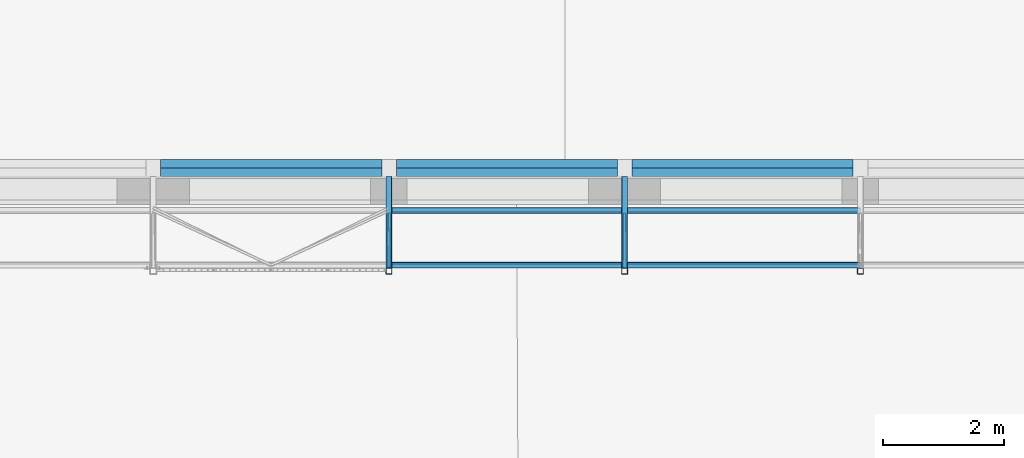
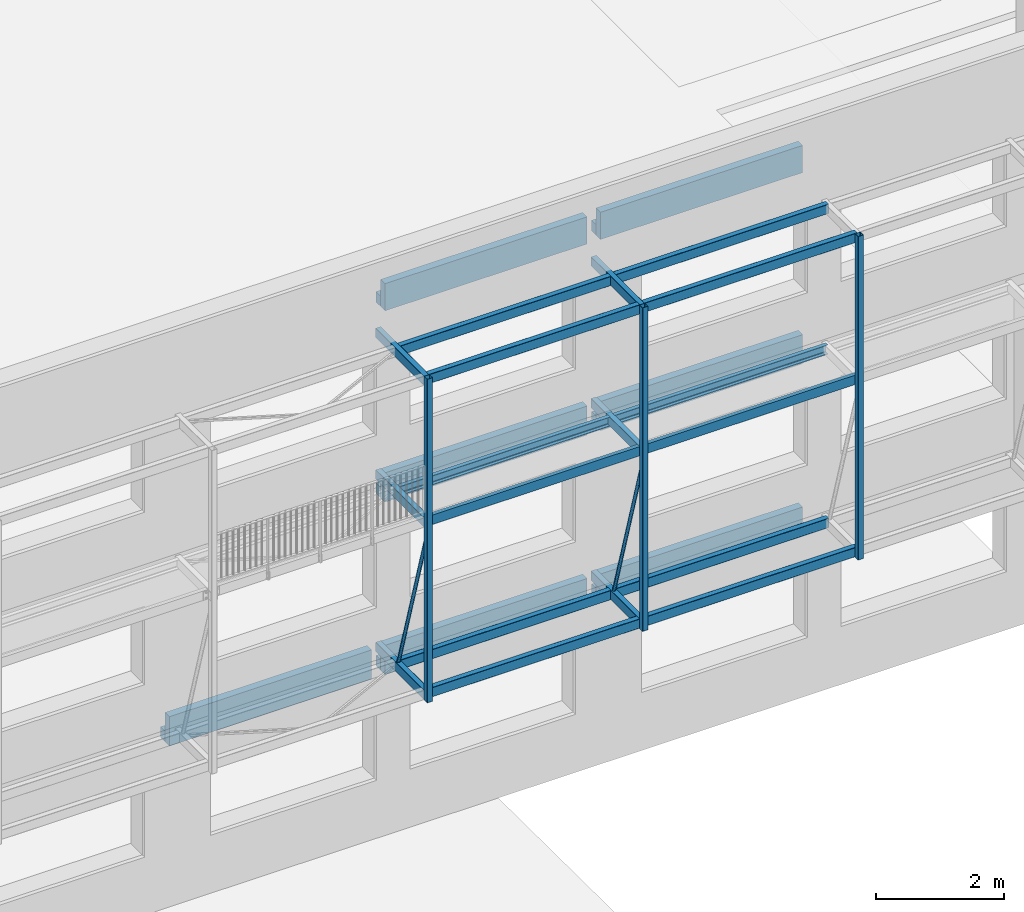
# One storey, part 23 of 78: 35 beams, 2 members, 29 elements without a shape of their own.
"""IFC2X3 building model written with IfcOpenShell, lengths in millimetres."""

from ifc_helpers import new_model, si_unit, frame, origin_with_axes, origin_2d_with_axis, place, context, subcontext, project, spatial, rectangle, hollow_rectangle, hollow_circle, u_section, extrude, clip, halfspace, material, type_object, element, aggregate, save


model = new_model("IFC2X3")

# Units and contexts
model_context = context("Model", 3, precision=1e-05, world=origin_with_axes())
body_context = subcontext(model_context, "Body", "Model", "MODEL_VIEW")
ifc_project = project(units=[si_unit("LENGTHUNIT", "METRE", prefix="MILLI"), si_unit("AREAUNIT", "SQUARE_METRE"), si_unit("VOLUMEUNIT", "CUBIC_METRE"), si_unit("MASSUNIT", "GRAM", prefix="KILO"), si_unit("TIMEUNIT", "SECOND"), si_unit("PLANEANGLEUNIT", "RADIAN"), si_unit("SOLIDANGLEUNIT", "STERADIAN"), si_unit("THERMODYNAMICTEMPERATUREUNIT", "DEGREE_CELSIUS"), si_unit("LUMINOUSINTENSITYUNIT", "LUMEN")], contexts=[model_context])

# Site, building, storey
site_placement = place(None, origin_with_axes())
site = spatial("IfcSite", under=ifc_project, at=site_placement, Name="Site", CompositionType="ELEMENT")
building_placement = place(site_placement, origin_with_axes())
building = spatial("IfcBuilding", under=site, at=building_placement, Name="Undefined", CompositionType="ELEMENT")
storey_placement = place(building_placement, origin_with_axes())
storey = spatial("IfcBuildingStorey", under=building, at=storey_placement, Name="Undefined", CompositionType="ELEMENT", Elevation=0.0)

# Assembly, beam
assembly_1_placement = place(storey_placement, origin_with_axes())
assembly_1 = element("IfcElementAssembly", 1, at=assembly_1_placement, inside=storey, Name="CONSOLE", AssemblyPlace="NOTDEFINED", PredefinedType="RIGID_FRAME")
ifc_material_1 = material(Name="STEEL/S275JR")
beam_type_1 = type_object("IfcBeamType", Name="TUBE-C-100*100*4", PredefinedType="NOTDEFINED")
beam_1_placement = place(assembly_1_placement, frame((-10985.0, -8663.0, 162680.04), z_axis=(0.0, 1.0, 0.0), x_axis=(0.0, 0.0, -1.0)))
beam_1 = element("IfcBeam", 2, at=beam_1_placement, type_object=beam_type_1, material=ifc_material_1, Name="CONSOLE", ObjectType="TUBE-C-100*100*4", context=body_context, shape_type="SweptSolid", body=[
    extrude(hollow_rectangle(XDim=100.0, YDim=100.0, WallThickness=4.0, InnerFilletRadius=4.0, OuterFilletRadius=8.0, at=origin_2d_with_axis()), frame((6190.0, 0.0, 0.0), z_axis=(-1.0, 0.0, 0.0), x_axis=(0.0, -1.0, 0.0)), (0.0, 0.0, 1.0), 6190.0),
])
aggregate(assembly_1, [beam_1])

assembly_2_placement = place(storey_placement, origin_with_axes())
assembly_2 = element("IfcElementAssembly", 3, at=assembly_2_placement, inside=storey, Name="CONSOLE", AssemblyPlace="NOTDEFINED", PredefinedType="RIGID_FRAME")
beam_2_placement = place(assembly_2_placement, frame((-14885.0, -8663.0, 162680.04), z_axis=(0.0, 1.0, 0.0), x_axis=(0.0, 0.0, -1.0)))
beam_2 = element("IfcBeam", 4, at=beam_2_placement, type_object=beam_type_1, material=ifc_material_1, Name="CONSOLE", ObjectType="TUBE-C-100*100*4", context=body_context, shape_type="SweptSolid", body=[
    extrude(hollow_rectangle(XDim=100.0, YDim=100.0, WallThickness=4.0, InnerFilletRadius=4.0, OuterFilletRadius=8.0, at=origin_2d_with_axis()), frame((6190.0, 0.0, 0.0), z_axis=(-1.0, 0.0, 0.0), x_axis=(0.0, -1.0, 0.0)), (0.0, 0.0, 1.0), 6190.0),
])

assembly_3_placement = place(storey_placement, origin_with_axes())
assembly_3 = element("IfcElementAssembly", 5, at=assembly_3_placement, inside=storey, Name="CONSOLE", AssemblyPlace="NOTDEFINED", PredefinedType="RIGID_FRAME")
beam_3_placement = place(assembly_3_placement, frame((-18785.0, -8663.0, 162680.04), z_axis=(0.0, 1.0, 0.0), x_axis=(0.0, 0.0, -1.0)))
beam_3 = element("IfcBeam", 6, at=beam_3_placement, type_object=beam_type_1, material=ifc_material_1, Name="CONSOLE", ObjectType="TUBE-C-100*100*4", context=body_context, shape_type="SweptSolid", body=[
    extrude(hollow_rectangle(XDim=100.0, YDim=100.0, WallThickness=4.0, InnerFilletRadius=4.0, OuterFilletRadius=8.0, at=origin_2d_with_axis()), frame((6190.0, 0.0, 0.0), z_axis=(-1.0, 0.0, 0.0), x_axis=(0.0, -1.0, 0.0)), (0.0, 0.0, 1.0), 6190.0),
])

assembly_4_placement = place(storey_placement, origin_with_axes())
assembly_4 = element("IfcElementAssembly", 7, at=assembly_4_placement, inside=storey, AssemblyPlace="NOTDEFINED", PredefinedType="RIGID_FRAME")
beam_type_2 = type_object("IfcBeamType", Name="TUBE-R-180*100*4", PredefinedType="NOTDEFINED")
beam_4_placement = place(assembly_4_placement, frame((-14885.0, -7663.00047683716, 162590.054194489), z_axis=(0.0, 0.0, 1.0), x_axis=(1.0, 0.0, 0.0)))
beam_4 = element("IfcBeam", 8, at=beam_4_placement, type_object=beam_type_2, material=ifc_material_1, Name="SOLIVE", ObjectType="TUBE-R-180*100*4", context=body_context, shape_type="SweptSolid", body=[
    extrude(hollow_rectangle(XDim=100.0, YDim=180.0, WallThickness=4.0, InnerFilletRadius=4.0, OuterFilletRadius=8.0, at=origin_2d_with_axis()), frame((3899.99999999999, 0.0, 0.0), z_axis=(-1.0, 0.0, 0.0), x_axis=(0.0, -1.0, 0.0)), (0.0, 0.0, 1.0), 3900.0),
])
aggregate(assembly_4, [beam_4])

assembly_5_placement = place(storey_placement, origin_with_axes())
assembly_5 = element("IfcElementAssembly", 9, at=assembly_5_placement, inside=storey, AssemblyPlace="NOTDEFINED", PredefinedType="RIGID_FRAME")
beam_5_placement = place(assembly_5_placement, frame((-18785.0, -7663.00047683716, 162590.054194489), z_axis=(0.0, 0.0, 1.0), x_axis=(1.0, 0.0, 0.0)))
beam_5 = element("IfcBeam", 10, at=beam_5_placement, type_object=beam_type_2, material=ifc_material_1, Name="SOLIVE", ObjectType="TUBE-R-180*100*4", context=body_context, shape_type="SweptSolid", body=[
    extrude(hollow_rectangle(XDim=100.0, YDim=180.0, WallThickness=4.0, InnerFilletRadius=4.0, OuterFilletRadius=8.0, at=origin_2d_with_axis()), frame((3899.99999999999, 0.0, 0.0), z_axis=(-1.0, 0.0, 0.0), x_axis=(0.0, -1.0, 0.0)), (0.0, 0.0, 1.0), 3900.0),
])
aggregate(assembly_5, [beam_5])

assembly_6_placement = place(storey_placement, origin_with_axes())
assembly_6 = element("IfcElementAssembly", 11, at=assembly_6_placement, inside=storey, AssemblyPlace="NOTDEFINED", PredefinedType="RIGID_FRAME")
beam_6_placement = place(assembly_6_placement, frame((-14885.0, -8563.00047683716, 162590.054194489), z_axis=(0.0, 0.0, 1.0), x_axis=(1.0, 0.0, 0.0)))
beam_6 = element("IfcBeam", 12, at=beam_6_placement, type_object=beam_type_2, material=ifc_material_1, Name="SOLIVE", ObjectType="TUBE-R-180*100*4", context=body_context, shape_type="SweptSolid", body=[
    extrude(hollow_rectangle(XDim=100.0, YDim=180.0, WallThickness=4.0, InnerFilletRadius=4.0, OuterFilletRadius=8.0, at=origin_2d_with_axis()), frame((3899.99999999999, 0.0, 0.0), z_axis=(-1.0, 0.0, 0.0), x_axis=(0.0, -1.0, 0.0)), (0.0, 0.0, 1.0), 3900.0),
])
aggregate(assembly_6, [beam_6])

assembly_7_placement = place(storey_placement, origin_with_axes())
assembly_7 = element("IfcElementAssembly", 13, at=assembly_7_placement, inside=storey, AssemblyPlace="NOTDEFINED", PredefinedType="RIGID_FRAME")
beam_7_placement = place(assembly_7_placement, frame((-18785.0, -8563.00047683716, 162590.054194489), z_axis=(0.0, 0.0, 1.0), x_axis=(1.0, 0.0, 0.0)))
beam_7 = element("IfcBeam", 14, at=beam_7_placement, type_object=beam_type_2, material=ifc_material_1, Name="SOLIVE", ObjectType="TUBE-R-180*100*4", context=body_context, shape_type="SweptSolid", body=[
    extrude(hollow_rectangle(XDim=100.0, YDim=180.0, WallThickness=4.0, InnerFilletRadius=4.0, OuterFilletRadius=8.0, at=origin_2d_with_axis()), frame((3899.99999999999, 0.0, 0.0), z_axis=(-1.0, 0.0, 0.0), x_axis=(0.0, -1.0, 0.0)), (0.0, 0.0, 1.0), 3900.0),
])
aggregate(assembly_7, [beam_7])

assembly_8_placement = place(storey_placement, origin_with_axes())
assembly_8 = element("IfcElementAssembly", 15, at=assembly_8_placement, inside=storey, AssemblyPlace="NOTDEFINED", PredefinedType="RIGID_FRAME")
beam_8_placement = place(assembly_8_placement, frame((-14885.0, -7663.00047683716, 156580.054194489), z_axis=(0.0, 0.0, 1.0), x_axis=(1.0, 0.0, 0.0)))
beam_8 = element("IfcBeam", 16, at=beam_8_placement, type_object=beam_type_2, material=ifc_material_1, Name="SOLIVE", ObjectType="TUBE-R-180*100*4", context=body_context, shape_type="SweptSolid", body=[
    extrude(hollow_rectangle(XDim=100.0, YDim=180.0, WallThickness=4.0, InnerFilletRadius=4.0, OuterFilletRadius=8.0, at=origin_2d_with_axis()), frame((3899.99999999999, 0.0, 0.0), z_axis=(-1.0, 0.0, 0.0), x_axis=(0.0, -1.0, 0.0)), (0.0, 0.0, 1.0), 3900.0),
])
aggregate(assembly_8, [beam_8])

assembly_9_placement = place(storey_placement, origin_with_axes())
assembly_9 = element("IfcElementAssembly", 17, at=assembly_9_placement, inside=storey, AssemblyPlace="NOTDEFINED", PredefinedType="RIGID_FRAME")
beam_9_placement = place(assembly_9_placement, frame((-18785.0, -7663.00047683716, 156580.054194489), z_axis=(0.0, 0.0, 1.0), x_axis=(1.0, 0.0, 0.0)))
beam_9 = element("IfcBeam", 18, at=beam_9_placement, type_object=beam_type_2, material=ifc_material_1, Name="SOLIVE", ObjectType="TUBE-R-180*100*4", context=body_context, shape_type="SweptSolid", body=[
    extrude(hollow_rectangle(XDim=100.0, YDim=180.0, WallThickness=4.0, InnerFilletRadius=4.0, OuterFilletRadius=8.0, at=origin_2d_with_axis()), frame((3899.99999999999, 0.0, 0.0), z_axis=(-1.0, 0.0, 0.0), x_axis=(0.0, -1.0, 0.0)), (0.0, 0.0, 1.0), 3900.0),
])
aggregate(assembly_9, [beam_9])

assembly_10_placement = place(storey_placement, origin_with_axes())
assembly_10 = element("IfcElementAssembly", 19, at=assembly_10_placement, inside=storey, AssemblyPlace="NOTDEFINED", PredefinedType="RIGID_FRAME")
beam_10_placement = place(assembly_10_placement, frame((-14885.0, -8563.00047683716, 156580.054194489), z_axis=(0.0, 0.0, 1.0), x_axis=(1.0, 0.0, 0.0)))
beam_10 = element("IfcBeam", 20, at=beam_10_placement, type_object=beam_type_2, material=ifc_material_1, Name="SOLIVE", ObjectType="TUBE-R-180*100*4", context=body_context, shape_type="SweptSolid", body=[
    extrude(hollow_rectangle(XDim=100.0, YDim=180.0, WallThickness=4.0, InnerFilletRadius=4.0, OuterFilletRadius=8.0, at=origin_2d_with_axis()), frame((3899.99999999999, 0.0, 0.0), z_axis=(-1.0, 0.0, 0.0), x_axis=(0.0, -1.0, 0.0)), (0.0, 0.0, 1.0), 3900.0),
])
aggregate(assembly_10, [beam_10])

assembly_11_placement = place(storey_placement, origin_with_axes())
assembly_11 = element("IfcElementAssembly", 21, at=assembly_11_placement, inside=storey, AssemblyPlace="NOTDEFINED", PredefinedType="RIGID_FRAME")
beam_11_placement = place(assembly_11_placement, frame((-18785.0, -8563.00047683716, 156580.054194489), z_axis=(0.0, 0.0, 1.0), x_axis=(1.0, 0.0, 0.0)))
beam_11 = element("IfcBeam", 22, at=beam_11_placement, type_object=beam_type_2, material=ifc_material_1, Name="SOLIVE", ObjectType="TUBE-R-180*100*4", context=body_context, shape_type="SweptSolid", body=[
    extrude(hollow_rectangle(XDim=100.0, YDim=180.0, WallThickness=4.0, InnerFilletRadius=4.0, OuterFilletRadius=8.0, at=origin_2d_with_axis()), frame((3899.99999999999, 0.0, 0.0), z_axis=(-1.0, 0.0, 0.0), x_axis=(0.0, -1.0, 0.0)), (0.0, 0.0, 1.0), 3900.0),
])
aggregate(assembly_11, [beam_11])

# Beam
beam_12_placement = place(assembly_2_placement, frame((-14885.0, -8613.0, 162590.04), z_axis=(0.0, 0.0, 1.0), x_axis=(0.0, 1.0, 0.0)))
beam_12 = element("IfcBeam", 23, at=beam_12_placement, type_object=beam_type_2, material=ifc_material_1, Name="CONSOLE", ObjectType="TUBE-R-180*100*4", context=body_context, shape_type="Clipping", body=[
    clip(extrude(hollow_rectangle(XDim=100.0, YDim=180.0, WallThickness=4.0, InnerFilletRadius=4.0, OuterFilletRadius=8.0, at=origin_2d_with_axis()), frame((1518.0000000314, 0.0, -1.28579601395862e-18), z_axis=(-1.0, 0.0, 0.0), x_axis=(0.0, -1.0, 0.0)), (0.0, 0.0, 1.0), 1518.0), halfspace(frame((0.0, 0.0, 1090.0), z_axis=(-1.0, 0.0, 0.0), x_axis=(0.0, -1.0, 0.0)), False)),
])

beam_13_placement = place(assembly_2_placement, frame((-14885.0, -8613.0, 156580.04), z_axis=(0.0, 0.0, 1.0), x_axis=(0.0, 1.0, 0.0)))
beam_13 = element("IfcBeam", 24, at=beam_13_placement, type_object=beam_type_2, material=ifc_material_1, Name="CONSOLE", ObjectType="TUBE-R-180*100*4", context=body_context, shape_type="Clipping", body=[
    clip(extrude(hollow_rectangle(XDim=100.0, YDim=180.0, WallThickness=4.0, InnerFilletRadius=4.0, OuterFilletRadius=8.0, at=origin_2d_with_axis()), frame((1518.0000000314, 0.0, -1.28579601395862e-18), z_axis=(-1.0, 0.0, 0.0), x_axis=(0.0, -1.0, 0.0)), (0.0, 0.0, 1.0), 1518.0), halfspace(frame((0.0, 0.0, 1090.0), z_axis=(-1.0, 0.0, 0.0), x_axis=(0.0, -1.0, 0.0)), False)),
])

beam_14_placement = place(assembly_2_placement, frame((-14885.0, -8613.0, 159880.04), z_axis=(0.0, 0.0, 1.0), x_axis=(0.0, 1.0, 0.0)))
beam_14 = element("IfcBeam", 25, at=beam_14_placement, type_object=beam_type_2, material=ifc_material_1, Name="CONSOLE", ObjectType="TUBE-R-180*100*4", context=body_context, shape_type="Clipping", body=[
    clip(extrude(hollow_rectangle(XDim=100.0, YDim=180.0, WallThickness=4.0, InnerFilletRadius=4.0, OuterFilletRadius=8.0, at=origin_2d_with_axis()), frame((1518.0000000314, 0.0, -1.28579601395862e-18), z_axis=(-1.0, 0.0, 0.0), x_axis=(0.0, -1.0, 0.0)), (0.0, 0.0, 1.0), 1518.0), halfspace(frame((0.0, 0.0, 1090.0), z_axis=(-1.0, 0.0, 0.0), x_axis=(0.0, -1.0, 0.0)), False)),
])

beam_15_placement = place(assembly_3_placement, frame((-18785.0, -8613.0, 162590.04), z_axis=(0.0, 0.0, 1.0), x_axis=(0.0, 1.0, 0.0)))
beam_15 = element("IfcBeam", 26, at=beam_15_placement, type_object=beam_type_2, material=ifc_material_1, Name="CONSOLE", ObjectType="TUBE-R-180*100*4", context=body_context, shape_type="Clipping", body=[
    clip(extrude(hollow_rectangle(XDim=100.0, YDim=180.0, WallThickness=4.0, InnerFilletRadius=4.0, OuterFilletRadius=8.0, at=origin_2d_with_axis()), frame((1518.0000000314, 0.0, -1.28579601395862e-18), z_axis=(-1.0, 0.0, 0.0), x_axis=(0.0, -1.0, 0.0)), (0.0, 0.0, 1.0), 1518.0), halfspace(frame((0.0, 0.0, 1090.0), z_axis=(-1.0, 0.0, 0.0), x_axis=(0.0, -1.0, 0.0)), False)),
])

beam_16_placement = place(assembly_3_placement, frame((-18785.0, -8613.0, 156580.04), z_axis=(0.0, 0.0, 1.0), x_axis=(0.0, 1.0, 0.0)))
beam_16 = element("IfcBeam", 27, at=beam_16_placement, type_object=beam_type_2, material=ifc_material_1, Name="CONSOLE", ObjectType="TUBE-R-180*100*4", context=body_context, shape_type="Clipping", body=[
    clip(extrude(hollow_rectangle(XDim=100.0, YDim=180.0, WallThickness=4.0, InnerFilletRadius=4.0, OuterFilletRadius=8.0, at=origin_2d_with_axis()), frame((1518.0000000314, 0.0, -1.28579601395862e-18), z_axis=(-1.0, 0.0, 0.0), x_axis=(0.0, -1.0, 0.0)), (0.0, 0.0, 1.0), 1518.0), halfspace(frame((0.0, 0.0, 1090.0), z_axis=(-1.0, 0.0, 0.0), x_axis=(0.0, -1.0, 0.0)), False)),
])

beam_17_placement = place(assembly_3_placement, frame((-18785.0, -8613.0, 159880.04), z_axis=(0.0, 0.0, 1.0), x_axis=(0.0, 1.0, 0.0)))
beam_17 = element("IfcBeam", 28, at=beam_17_placement, type_object=beam_type_2, material=ifc_material_1, Name="CONSOLE", ObjectType="TUBE-R-180*100*4", context=body_context, shape_type="Clipping", body=[
    clip(extrude(hollow_rectangle(XDim=100.0, YDim=180.0, WallThickness=4.0, InnerFilletRadius=4.0, OuterFilletRadius=8.0, at=origin_2d_with_axis()), frame((1518.0000000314, 0.0, -1.28579601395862e-18), z_axis=(-1.0, 0.0, 0.0), x_axis=(0.0, -1.0, 0.0)), (0.0, 0.0, 1.0), 1518.0), halfspace(frame((0.0, 0.0, 1090.0), z_axis=(-1.0, 0.0, 0.0), x_axis=(0.0, -1.0, 0.0)), False)),
])

# Member
member_type = type_object("IfcMemberType", Name="TUBE-60.3*4", PredefinedType="NOTDEFINED")
member_1_placement = place(assembly_2_placement, frame((-14885.0, -8703.00000000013, 159880.039999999), z_axis=(0.0, -0.957024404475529, -0.290007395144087), x_axis=(0.0, 0.290007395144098, -0.957024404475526)))
member_1 = element("IfcMember", 29, at=member_1_placement, type_object=member_type, material=ifc_material_1, Name="STAB", ObjectType="TUBE-60.3*4", context=body_context, shape_type="Clipping", body=[
    clip(clip(extrude(hollow_circle(Radius=30.14999962, WallThickness=4.0, at=origin_2d_with_axis()), frame((3463.86411679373, 0.0, 0.0), z_axis=(-1.0, 0.0, 0.0), x_axis=(0.0, -1.0, 0.0)), (0.0, 0.0, 1.0), 3463.86), halfspace(frame((2808.14160878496, 0.0, 1801.81594648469), z_axis=(0.957024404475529, 0.0, 0.290007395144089), x_axis=(0.0, 1.0, 0.0)), False)), halfspace(frame((-939.291695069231, 0.0, -378.6753358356), z_axis=(-0.290007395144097, 0.0, 0.957024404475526), x_axis=(0.0, 1.0, 0.0)), False)),
])

aggregate(assembly_2, [member_1, beam_2, beam_12, beam_13, beam_14])

member_2_placement = place(assembly_3_placement, frame((-18785.0, -8703.00000000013, 159880.039999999), z_axis=(0.0, -0.957024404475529, -0.290007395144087), x_axis=(0.0, 0.290007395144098, -0.957024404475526)))
member_2 = element("IfcMember", 30, at=member_2_placement, type_object=member_type, material=ifc_material_1, Name="STAB", ObjectType="TUBE-60.3*4", context=body_context, shape_type="Clipping", body=[
    clip(clip(extrude(hollow_circle(Radius=30.14999962, WallThickness=4.0, at=origin_2d_with_axis()), frame((3463.86411679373, 0.0, 0.0), z_axis=(-1.0, 0.0, 0.0), x_axis=(0.0, -1.0, 0.0)), (0.0, 0.0, 1.0), 3463.86), halfspace(frame((2808.14160878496, 0.0, 1801.81594648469), z_axis=(0.957024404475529, 0.0, 0.290007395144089), x_axis=(0.0, 1.0, 0.0)), False)), halfspace(frame((-939.291695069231, 0.0, -378.6753358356), z_axis=(-0.290007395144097, 0.0, 0.957024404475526), x_axis=(0.0, 1.0, 0.0)), False)),
])

aggregate(assembly_3, [member_2, beam_3, beam_15, beam_16, beam_17])

# Assembly, beam
assembly_12_placement = place(storey_placement, origin_with_axes())
assembly_12 = element("IfcElementAssembly", 31, at=assembly_12_placement, inside=storey, AssemblyPlace="NOTDEFINED", PredefinedType="RIGID_FRAME")
beam_type_3 = type_object("IfcBeamType", Name="UPN180", PredefinedType="NOTDEFINED")
beam_18_placement = place(assembly_12_placement, frame((-14885.0, -7648.0, 159880.04), z_axis=(0.0, 0.0, 1.0), x_axis=(1.0, 0.0, 0.0)))
beam_18 = element("IfcBeam", 32, at=beam_18_placement, type_object=beam_type_3, material=ifc_material_1, Name="SOLIVE", ObjectType="UPN180", context=body_context, shape_type="SweptSolid", body=[
    extrude(u_section(Depth=180.0, FlangeWidth=70.0, WebThickness=8.0, FlangeThickness=11.0, FilletRadius=11.0, EdgeRadius=5.5, FlangeSlope=0.0798299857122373, at=origin_2d_with_axis()), frame((3899.99999999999, 0.0, 0.0), z_axis=(-1.0, 0.0, 0.0), x_axis=(0.0, -1.0, 0.0)), (0.0, 0.0, 1.0), 3900.0),
])
aggregate(assembly_12, [beam_18])

assembly_13_placement = place(storey_placement, origin_with_axes())
assembly_13 = element("IfcElementAssembly", 33, at=assembly_13_placement, inside=storey, AssemblyPlace="NOTDEFINED", PredefinedType="RIGID_FRAME")
beam_19_placement = place(assembly_13_placement, frame((-18785.0, -7648.0, 159880.04), z_axis=(0.0, 0.0, 1.0), x_axis=(1.0, 0.0, 0.0)))
beam_19 = element("IfcBeam", 34, at=beam_19_placement, type_object=beam_type_3, material=ifc_material_1, Name="SOLIVE", ObjectType="UPN180", context=body_context, shape_type="SweptSolid", body=[
    extrude(u_section(Depth=180.0, FlangeWidth=70.0, WebThickness=8.0, FlangeThickness=11.0, FilletRadius=11.0, EdgeRadius=5.5, FlangeSlope=0.0798299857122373, at=origin_2d_with_axis()), frame((3899.99999999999, 0.0, 0.0), z_axis=(-1.0, 0.0, 0.0), x_axis=(0.0, -1.0, 0.0)), (0.0, 0.0, 1.0), 3900.0),
])
aggregate(assembly_13, [beam_19])

assembly_14_placement = place(storey_placement, origin_with_axes())
assembly_14 = element("IfcElementAssembly", 35, at=assembly_14_placement, inside=storey, AssemblyPlace="NOTDEFINED", PredefinedType="RIGID_FRAME")
beam_20_placement = place(assembly_14_placement, frame((-14885.0, -8578.0, 159880.04), z_axis=(0.0, 0.0, -1.0), x_axis=(1.0, 0.0, 0.0)))
beam_20 = element("IfcBeam", 36, at=beam_20_placement, type_object=beam_type_3, material=ifc_material_1, Name="SOLIVE", ObjectType="UPN180", context=body_context, shape_type="SweptSolid", body=[
    extrude(u_section(Depth=180.0, FlangeWidth=70.0, WebThickness=8.0, FlangeThickness=11.0, FilletRadius=11.0, EdgeRadius=5.5, FlangeSlope=0.0798299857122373, at=origin_2d_with_axis()), frame((3899.99999999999, 0.0, 0.0), z_axis=(-1.0, 0.0, 0.0), x_axis=(0.0, -1.0, 0.0)), (0.0, 0.0, 1.0), 3900.0),
])
aggregate(assembly_14, [beam_20])

assembly_15_placement = place(storey_placement, origin_with_axes())
assembly_15 = element("IfcElementAssembly", 37, at=assembly_15_placement, inside=storey, AssemblyPlace="NOTDEFINED", PredefinedType="RIGID_FRAME")
beam_21_placement = place(assembly_15_placement, frame((-18785.0, -8578.0, 159880.04), z_axis=(0.0, 0.0, -1.0), x_axis=(1.0, 0.0, 0.0)))
beam_21 = element("IfcBeam", 38, at=beam_21_placement, type_object=beam_type_3, material=ifc_material_1, Name="SOLIVE", ObjectType="UPN180", context=body_context, shape_type="SweptSolid", body=[
    extrude(u_section(Depth=180.0, FlangeWidth=70.0, WebThickness=8.0, FlangeThickness=11.0, FilletRadius=11.0, EdgeRadius=5.5, FlangeSlope=0.0798299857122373, at=origin_2d_with_axis()), frame((3899.99999999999, 0.0, 0.0), z_axis=(-1.0, 0.0, 0.0), x_axis=(0.0, -1.0, 0.0)), (0.0, 0.0, 1.0), 3900.0),
])
aggregate(assembly_15, [beam_21])

assembly_16_placement = place(storey_placement, origin_with_axes())
assembly_16 = element("IfcElementAssembly", 39, at=assembly_16_placement, inside=storey, Name="POUTRE", AssemblyPlace="NOTDEFINED", PredefinedType="NOTDEFINED")
ifc_material_2 = material(Name="TIMBER/CHENE")
beam_type_4 = type_object("IfcBeamType", Name="520*140", PredefinedType="NOTDEFINED")
beam_22_placement = place(assembly_16_placement, frame((-15003.4322738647, -7024.99992370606, 163210.042724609), z_axis=(0.0, 0.0, 1.0), x_axis=(-1.0, 0.0, 0.0)))
beam_22 = element("IfcBeam", 40, at=beam_22_placement, type_object=beam_type_4, material=ifc_material_2, Name="POUTRE", ObjectType="520*140", context=body_context, shape_type="SweptSolid", body=[
    extrude(rectangle(XDim=140.0, YDim=520.0, at=origin_2d_with_axis()), frame((3660.0006866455, 0.0, 0.0), z_axis=(-1.0, 0.0, 0.0), x_axis=(0.0, -1.0, 0.0)), (0.0, 0.0, 1.0), 3660.0),
])
aggregate(assembly_16, [beam_22])

assembly_17_placement = place(storey_placement, origin_with_axes())
assembly_17 = element("IfcElementAssembly", 41, at=assembly_17_placement, inside=storey, Name="POUTRE", AssemblyPlace="NOTDEFINED", PredefinedType="NOTDEFINED")
beam_23_placement = place(assembly_17_placement, frame((-11103.4326553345, -7024.99992370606, 163210.042724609), z_axis=(0.0, 0.0, 1.0), x_axis=(-1.0, 0.0, 0.0)))
beam_23 = element("IfcBeam", 42, at=beam_23_placement, type_object=beam_type_4, material=ifc_material_2, Name="POUTRE", ObjectType="520*140", context=body_context, shape_type="SweptSolid", body=[
    extrude(rectangle(XDim=140.0, YDim=520.0, at=origin_2d_with_axis()), frame((3660.0006866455, 0.0, 0.0), z_axis=(-1.0, 0.0, 0.0), x_axis=(0.0, -1.0, 0.0)), (0.0, 0.0, 1.0), 3660.0),
])
aggregate(assembly_17, [beam_23])

assembly_18_placement = place(storey_placement, origin_with_axes())
assembly_18 = element("IfcElementAssembly", 43, at=assembly_18_placement, inside=storey, Name="POUTRE", AssemblyPlace="NOTDEFINED", PredefinedType="NOTDEFINED")
beam_type_5 = type_object("IfcBeamType", Name="200*140", PredefinedType="NOTDEFINED")
beam_24_placement = place(assembly_18_placement, frame((-15003.4322738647, -6885.00053405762, 163050.042724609), z_axis=(0.0, 0.0, 1.0), x_axis=(-1.0, 0.0, 0.0)))
beam_24 = element("IfcBeam", 44, at=beam_24_placement, type_object=beam_type_5, material=ifc_material_2, Name="POUTRE", ObjectType="200*140", context=body_context, shape_type="SweptSolid", body=[
    extrude(rectangle(XDim=140.0, YDim=200.0, at=origin_2d_with_axis()), frame((3660.0006866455, 0.0, 0.0), z_axis=(-1.0, 0.0, 0.0), x_axis=(0.0, -1.0, 0.0)), (0.0, 0.0, 1.0), 3660.0),
])
aggregate(assembly_18, [beam_24])

assembly_19_placement = place(storey_placement, origin_with_axes())
assembly_19 = element("IfcElementAssembly", 45, at=assembly_19_placement, inside=storey, Name="POUTRE", AssemblyPlace="NOTDEFINED", PredefinedType="NOTDEFINED")
beam_25_placement = place(assembly_19_placement, frame((-15003.4322738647, -6885.00053405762, 159390.0390625), z_axis=(0.0, 0.0, 1.0), x_axis=(-1.0, 0.0, 0.0)))
beam_25 = element("IfcBeam", 46, at=beam_25_placement, type_object=beam_type_5, material=ifc_material_2, Name="POUTRE", ObjectType="200*140", context=body_context, shape_type="SweptSolid", body=[
    extrude(rectangle(XDim=140.0, YDim=200.0, at=origin_2d_with_axis()), frame((3660.0006866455, 0.0, 0.0), z_axis=(-1.0, 0.0, 0.0), x_axis=(0.0, -1.0, 0.0)), (0.0, 0.0, 1.0), 3660.0),
])
aggregate(assembly_19, [beam_25])

assembly_20_placement = place(storey_placement, origin_with_axes())
assembly_20 = element("IfcElementAssembly", 47, at=assembly_20_placement, inside=storey, Name="POUTRE", AssemblyPlace="NOTDEFINED", PredefinedType="NOTDEFINED")
beam_26_placement = place(assembly_20_placement, frame((-11103.4326553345, -6885.00053405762, 163050.042724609), z_axis=(0.0, 0.0, 1.0), x_axis=(-1.0, 0.0, 0.0)))
beam_26 = element("IfcBeam", 48, at=beam_26_placement, type_object=beam_type_5, material=ifc_material_2, Name="POUTRE", ObjectType="200*140", context=body_context, shape_type="SweptSolid", body=[
    extrude(rectangle(XDim=140.0, YDim=200.0, at=origin_2d_with_axis()), frame((3660.0006866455, 0.0, 0.0), z_axis=(-1.0, 0.0, 0.0), x_axis=(0.0, -1.0, 0.0)), (0.0, 0.0, 1.0), 3660.0),
])
aggregate(assembly_20, [beam_26])

assembly_21_placement = place(storey_placement, origin_with_axes())
assembly_21 = element("IfcElementAssembly", 49, at=assembly_21_placement, inside=storey, Name="POUTRE", AssemblyPlace="NOTDEFINED", PredefinedType="NOTDEFINED")
beam_27_placement = place(assembly_21_placement, frame((-11103.4326553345, -6885.00053405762, 159390.0390625), z_axis=(0.0, 0.0, 1.0), x_axis=(-1.0, 0.0, 0.0)))
beam_27 = element("IfcBeam", 50, at=beam_27_placement, type_object=beam_type_5, material=ifc_material_2, Name="POUTRE", ObjectType="200*140", context=body_context, shape_type="SweptSolid", body=[
    extrude(rectangle(XDim=140.0, YDim=200.0, at=origin_2d_with_axis()), frame((3660.0006866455, 0.0, 0.0), z_axis=(-1.0, 0.0, 0.0), x_axis=(0.0, -1.0, 0.0)), (0.0, 0.0, 1.0), 3660.0),
])
aggregate(assembly_21, [beam_27])

assembly_22_placement = place(storey_placement, origin_with_axes())
assembly_22 = element("IfcElementAssembly", 51, at=assembly_22_placement, inside=storey, Name="POUTRE", AssemblyPlace="NOTDEFINED", PredefinedType="NOTDEFINED")
beam_28_placement = place(assembly_22_placement, frame((-18903.4319158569, -6885.0008328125, 156090.036499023), z_axis=(0.0, 0.0, 1.0), x_axis=(-1.0, 0.0, 0.0)))
beam_28 = element("IfcBeam", 52, at=beam_28_placement, type_object=beam_type_5, material=ifc_material_2, Name="POUTRE", ObjectType="200*140", context=body_context, shape_type="SweptSolid", body=[
    extrude(rectangle(XDim=140.0, YDim=200.0, at=origin_2d_with_axis()), frame((3660.0006866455, 0.0, 0.0), z_axis=(-1.0, 0.0, 0.0), x_axis=(0.0, -1.0, 0.0)), (0.0, 0.0, 1.0), 3660.0),
])
aggregate(assembly_22, [beam_28])

assembly_23_placement = place(storey_placement, origin_with_axes())
assembly_23 = element("IfcElementAssembly", 53, at=assembly_23_placement, inside=storey, Name="POUTRE", AssemblyPlace="NOTDEFINED", PredefinedType="NOTDEFINED")
beam_29_placement = place(assembly_23_placement, frame((-15003.4313436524, -6885.0008328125, 156090.036499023), z_axis=(0.0, 0.0, 1.0), x_axis=(-1.0, 0.0, 0.0)))
beam_29 = element("IfcBeam", 54, at=beam_29_placement, type_object=beam_type_5, material=ifc_material_2, Name="POUTRE", ObjectType="200*140", context=body_context, shape_type="SweptSolid", body=[
    extrude(rectangle(XDim=140.0, YDim=200.0, at=origin_2d_with_axis()), frame((3660.0006866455, 0.0, 0.0), z_axis=(-1.0, 0.0, 0.0), x_axis=(0.0, -1.0, 0.0)), (0.0, 0.0, 1.0), 3660.0),
])
aggregate(assembly_23, [beam_29])

assembly_24_placement = place(storey_placement, origin_with_axes())
assembly_24 = element("IfcElementAssembly", 55, at=assembly_24_placement, inside=storey, Name="POUTRE", AssemblyPlace="NOTDEFINED", PredefinedType="NOTDEFINED")
beam_30_placement = place(assembly_24_placement, frame((-11103.4325643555, -6885.00083281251, 156090.036499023), z_axis=(0.0, 0.0, 1.0), x_axis=(-1.0, 0.0, 0.0)))
beam_30 = element("IfcBeam", 56, at=beam_30_placement, type_object=beam_type_5, material=ifc_material_2, Name="POUTRE", ObjectType="200*140", context=body_context, shape_type="SweptSolid", body=[
    extrude(rectangle(XDim=140.0, YDim=200.0, at=origin_2d_with_axis()), frame((3660.0006866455, 0.0, 0.0), z_axis=(-1.0, 0.0, 0.0), x_axis=(0.0, -1.0, 0.0)), (0.0, 0.0, 1.0), 3660.0),
])
aggregate(assembly_24, [beam_30])

assembly_25_placement = place(storey_placement, origin_with_axes())
assembly_25 = element("IfcElementAssembly", 57, at=assembly_25_placement, inside=storey, Name="POUTRE", AssemblyPlace="NOTDEFINED", PredefinedType="NOTDEFINED")
beam_type_6 = type_object("IfcBeamType", Name="560*140", PredefinedType="NOTDEFINED")
beam_31_placement = place(assembly_25_placement, frame((-15003.4322738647, -7024.99992370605, 159570.0390625), z_axis=(0.0, 0.0, 1.0), x_axis=(-1.0, 0.0, 0.0)))
beam_31 = element("IfcBeam", 58, at=beam_31_placement, type_object=beam_type_6, material=ifc_material_2, Name="POUTRE", ObjectType="560*140", context=body_context, shape_type="SweptSolid", body=[
    extrude(rectangle(XDim=140.0, YDim=560.0, at=origin_2d_with_axis()), frame((3660.0006866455, 0.0, 0.0), z_axis=(-1.0, 0.0, 0.0), x_axis=(0.0, -1.0, 0.0)), (0.0, 0.0, 1.0), 3660.0),
])
aggregate(assembly_25, [beam_31])

assembly_26_placement = place(storey_placement, origin_with_axes())
assembly_26 = element("IfcElementAssembly", 59, at=assembly_26_placement, inside=storey, Name="POUTRE", AssemblyPlace="NOTDEFINED", PredefinedType="NOTDEFINED")
beam_32_placement = place(assembly_26_placement, frame((-11103.4326553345, -7024.99992370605, 159570.0390625), z_axis=(0.0, 0.0, 1.0), x_axis=(-1.0, 0.0, 0.0)))
beam_32 = element("IfcBeam", 60, at=beam_32_placement, type_object=beam_type_6, material=ifc_material_2, Name="POUTRE", ObjectType="560*140", context=body_context, shape_type="SweptSolid", body=[
    extrude(rectangle(XDim=140.0, YDim=560.0, at=origin_2d_with_axis()), frame((3660.0006866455, 0.0, 0.0), z_axis=(-1.0, 0.0, 0.0), x_axis=(0.0, -1.0, 0.0)), (0.0, 0.0, 1.0), 3660.0),
])
aggregate(assembly_26, [beam_32])

assembly_27_placement = place(storey_placement, origin_with_axes())
assembly_27 = element("IfcElementAssembly", 61, at=assembly_27_placement, inside=storey, Name="POUTRE", AssemblyPlace="NOTDEFINED", PredefinedType="NOTDEFINED")
beam_33_placement = place(assembly_27_placement, frame((-18903.4319158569, -7025.00022246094, 156270.036499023), z_axis=(0.0, 0.0, 1.0), x_axis=(-1.0, 0.0, 0.0)))
beam_33 = element("IfcBeam", 62, at=beam_33_placement, type_object=beam_type_6, material=ifc_material_2, Name="POUTRE", ObjectType="560*140", context=body_context, shape_type="SweptSolid", body=[
    extrude(rectangle(XDim=140.0, YDim=560.0, at=origin_2d_with_axis()), frame((3660.0006866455, 0.0, 0.0), z_axis=(-1.0, 0.0, 0.0), x_axis=(0.0, -1.0, 0.0)), (0.0, 0.0, 1.0), 3660.0),
])
aggregate(assembly_27, [beam_33])

assembly_28_placement = place(storey_placement, origin_with_axes())
assembly_28 = element("IfcElementAssembly", 63, at=assembly_28_placement, inside=storey, Name="POUTRE", AssemblyPlace="NOTDEFINED", PredefinedType="NOTDEFINED")
beam_34_placement = place(assembly_28_placement, frame((-15003.4313436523, -7025.00022246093, 156270.036499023), z_axis=(0.0, 0.0, 1.0), x_axis=(-1.0, 0.0, 0.0)))
beam_34 = element("IfcBeam", 64, at=beam_34_placement, type_object=beam_type_6, material=ifc_material_2, Name="POUTRE", ObjectType="560*140", context=body_context, shape_type="SweptSolid", body=[
    extrude(rectangle(XDim=140.0, YDim=560.0, at=origin_2d_with_axis()), frame((3660.0006866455, 0.0, 0.0), z_axis=(-1.0, 0.0, 0.0), x_axis=(0.0, -1.0, 0.0)), (0.0, 0.0, 1.0), 3660.0),
])
aggregate(assembly_28, [beam_34])

assembly_29_placement = place(storey_placement, origin_with_axes())
assembly_29 = element("IfcElementAssembly", 65, at=assembly_29_placement, inside=storey, Name="POUTRE", AssemblyPlace="NOTDEFINED", PredefinedType="NOTDEFINED")
beam_35_placement = place(assembly_29_placement, frame((-11103.4325643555, -7025.00022246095, 156270.036499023), z_axis=(0.0, 0.0, 1.0), x_axis=(-1.0, 0.0, 0.0)))
beam_35 = element("IfcBeam", 66, at=beam_35_placement, type_object=beam_type_6, material=ifc_material_2, Name="POUTRE", ObjectType="560*140", context=body_context, shape_type="SweptSolid", body=[
    extrude(rectangle(XDim=140.0, YDim=560.0, at=origin_2d_with_axis()), frame((3660.0006866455, 0.0, 0.0), z_axis=(-1.0, 0.0, 0.0), x_axis=(0.0, -1.0, 0.0)), (0.0, 0.0, 1.0), 3660.0),
])
aggregate(assembly_29, [beam_35])

save(model, "model.ifc")
